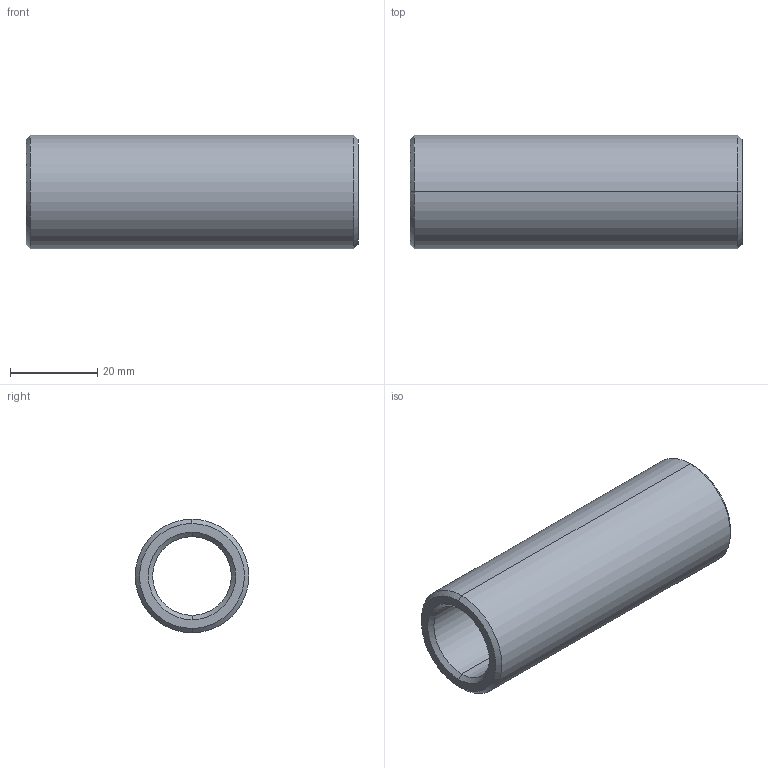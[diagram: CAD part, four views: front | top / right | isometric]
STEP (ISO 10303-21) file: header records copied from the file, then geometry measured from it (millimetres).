
FILE_DESCRIPTION(('CATIA V5 STEP Exchange'),'2;1');
FILE_NAME('C:\Users\Utente\Desktop\IO LAVORO\3D X SITO CF\X SITO\PLASTICA\352\352-18X76.stp','2021-04-12T15:38:16+00:00',('none'),('none'),'CATIA Version 5 Release 20 GA (IN-10)','CATIA V5 STEP AP203','none');
FILE_SCHEMA(('CONFIG_CONTROL_DESIGN'));
Length unit declared in the file: millimetre
Products named in the file (1): 352-18X76
Bounding box: 76 x 26 x 26 mm (x, y, z)
Volume: 20889.6 mm3; surface area: 10904.5 mm2
Topology: 1 solids, 1 shells, 14 faces, 44 edges, 32 vertices
Faces by surface type: cone 6, cylinder 4, plane 2, torus 2
Entity records: 634 total; most frequent: CARTESIAN_POINT 203, ORIENTED_EDGE 88, DIRECTION 64, EDGE_CURVE 44, AXIS2_PLACEMENT_3D 41, VERTEX_POINT 32, CIRCLE 26, EDGE_LOOP 16
